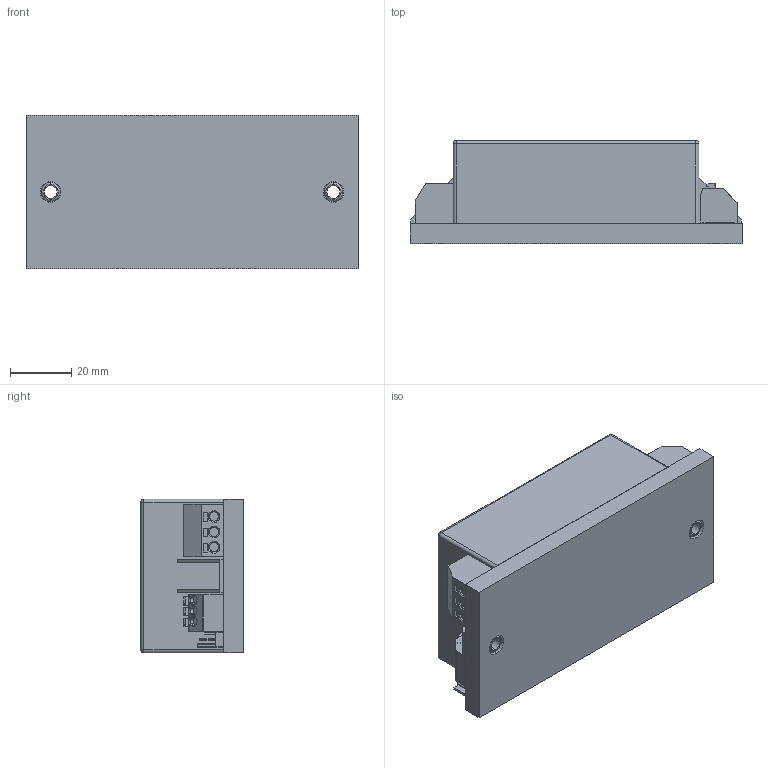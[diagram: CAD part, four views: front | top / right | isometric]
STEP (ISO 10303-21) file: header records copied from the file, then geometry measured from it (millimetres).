
FILE_DESCRIPTION (( 'STEP AP214' ), '1' );
FILE_NAME ('D-NM08-MLK.STEP', '2015-08-25T09:38:35', ( '' ), ( '' ), 'SwSTEP 2.0', 'SolidWorks 2015', '' );
FILE_SCHEMA (( 'AUTOMOTIVE_DESIGN' ));
Length unit declared in the file: millimetre
Products named in the file (32): 729720048; 712504672; Extruded; Extruded_7; X3Dummy-NM08-MLK; 712504544; 250-203; Extruded_6; BoardDummy-NM08-MLK; 62323928; Unterteil-gr; Cylinder; X1Dummy-NM08-MLK; D-NM08-MLK; 253_103_2_03; X5Dummy-NM08-MLK; 250_202_2_03; X2Dummy-NM08-MLK; 729720560; Extruded_5; 729720432; Aufkleber-75x45-NM08-MLK; Extruded_4; Oberteil-gr; 729720304; Dummy-NM08-MLK; Extruded_3; X4Dummy-NM08-MLK; 729720176; 712504800; Extruded_2; Extruded_8
Assembly tree (40 placements, depth 5):
  D-NM08-MLK
    Unterteil-gr
    Dummy-NM08-MLK
      BoardDummy-NM08-MLK
      X3Dummy-NM08-MLK
        250-203
      X2Dummy-NM08-MLK
        729720048
          Extruded
        729720176
          Extruded_2
        729720304  x4
          Extruded_3
        729720432
          Extruded_4
        729720560  x4
          Extruded_5
      X5Dummy-NM08-MLK
        250_202_2_03
      X1Dummy-NM08-MLK
        253_103_2_03
      X4Dummy-NM08-MLK
        62323928  x4
          Cylinder
        712504544
          Extruded_6
        712504672
          Extruded_7
        712504800
          Extruded_8
    Oberteil-gr
    Aufkleber-75x45-NM08-MLK
Bounding box: 108 x 33.5 x 50 mm (x, y, z)
Volume: 36091.4 mm3; surface area: 58619.7 mm2
Topology: 25 solids, 25 shells, 631 faces, 1589 edges, 1037 vertices
Faces by surface type: plane 437, cylinder 156, cone 22, torus 12, sphere 4
Entity records: 20479 total; most frequent: CARTESIAN_POINT 3218, DIRECTION 3069, ORIENTED_EDGE 2990, EDGE_CURVE 1495, LINE 1133, VECTOR 1133, VERTEX_POINT 977, AXIS2_PLACEMENT_3D 968
